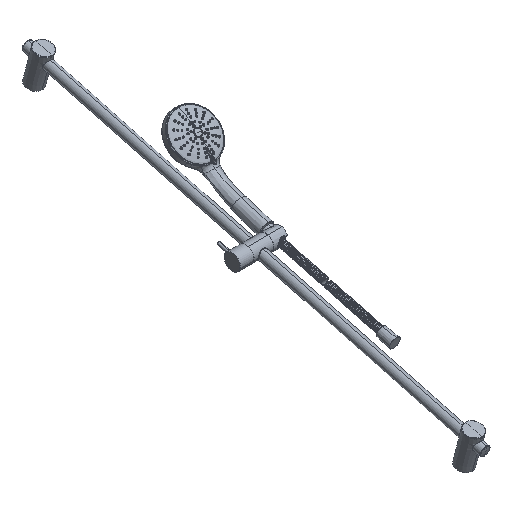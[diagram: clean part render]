
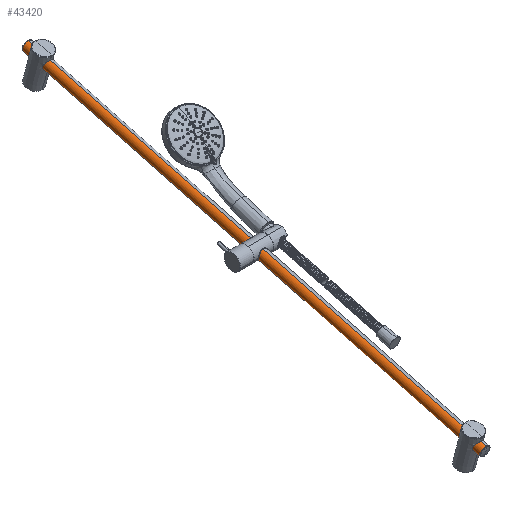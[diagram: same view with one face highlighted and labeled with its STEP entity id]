
A CAD part, isometric view. The second image highlights one B-rep face of the part: STEP entity #43420.
In plain terms, the highlighted cylindrical face has radius 10.3 mm (diameter 20.6 mm), a partial arc.
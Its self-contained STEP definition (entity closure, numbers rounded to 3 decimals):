
#43358=DIRECTION('',(0.,0.966,0.259));
#43359=VECTOR('',#43358,1000.);
#43360=CARTESIAN_POINT('',(-40.958,-466.209,
-94.318));
#43361=LINE('',#43360,#43359);
#43362=CARTESIAN_POINT('',(-41.,-463.543,
-104.267));
#43363=DIRECTION('',(0.,-0.966,-0.259));
#43364=DIRECTION('',(0.004,-0.259,0.966));
#43365=AXIS2_PLACEMENT_3D('',#43362,#43363,#43364);
#43367=DIRECTION('',(0.,0.966,0.259));
#43368=VECTOR('',#43367,1000.);
#43369=CARTESIAN_POINT('',(-41.041,-460.878,
-114.216));
#43370=LINE('',#43369,#43368);
#43381=CARTESIAN_POINT('',(-41.,502.382,
154.552));
#43382=DIRECTION('',(0.,-0.966,-0.259));
#43383=DIRECTION('',(0.004,-0.259,0.966));
#43384=AXIS2_PLACEMENT_3D('',#43381,#43382,#43383);
#43386=CARTESIAN_POINT('',(-40.958,-466.209,
-94.318));
#43387=CARTESIAN_POINT('',(-40.958,499.717,
164.501));
#43388=VERTEX_POINT('',#43386);
#43389=VERTEX_POINT('',#43387);
#43390=CARTESIAN_POINT('',(-41.041,-460.878,
-114.216));
#43391=CARTESIAN_POINT('',(-41.041,505.048,
144.603));
#43392=VERTEX_POINT('',#43390);
#43393=VERTEX_POINT('',#43391);
#43406=CARTESIAN_POINT('',(-41.,-511.84,
-117.208));
#43407=DIRECTION('',(0.,0.966,0.259));
#43408=DIRECTION('',(0.004,-0.259,0.966));
#43409=AXIS2_PLACEMENT_3D('',#43406,#43407,#43408);
#43410=CYLINDRICAL_SURFACE('',#43409,10.3);
#43412=ORIENTED_EDGE('',*,*,#43411,.F.);
#43413=ORIENTED_EDGE('',*,*,#43399,.T.);
#43415=ORIENTED_EDGE('',*,*,#43414,.T.);
#43417=ORIENTED_EDGE('',*,*,#43416,.F.);
#43418=EDGE_LOOP('',(#43412,#43413,#43415,#43417));
#43419=FACE_OUTER_BOUND('',#43418,.F.);
#43420=ADVANCED_FACE('',(#43419),#43410,.T.);
#43366=CIRCLE('',#43365,10.3);
#43385=CIRCLE('',#43384,10.3);
#43399=EDGE_CURVE('',#43388,#43392,#43366,.T.);
#43411=EDGE_CURVE('',#43388,#43389,#43361,.T.);
#43414=EDGE_CURVE('',#43392,#43393,#43370,.T.);
#43416=EDGE_CURVE('',#43389,#43393,#43385,.T.);
